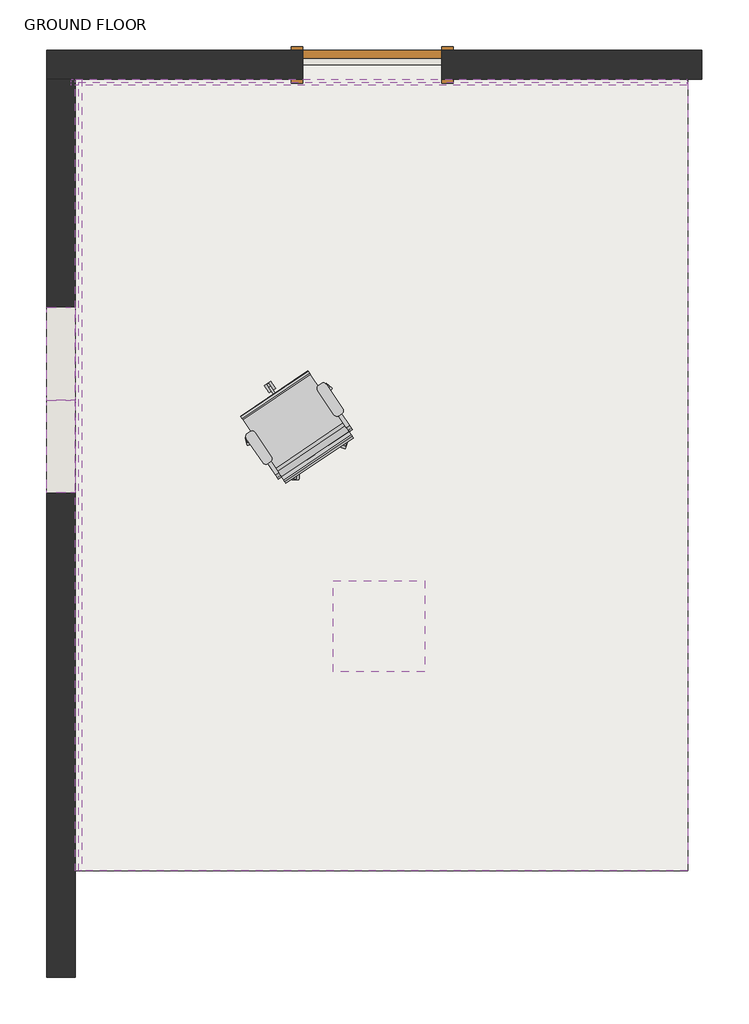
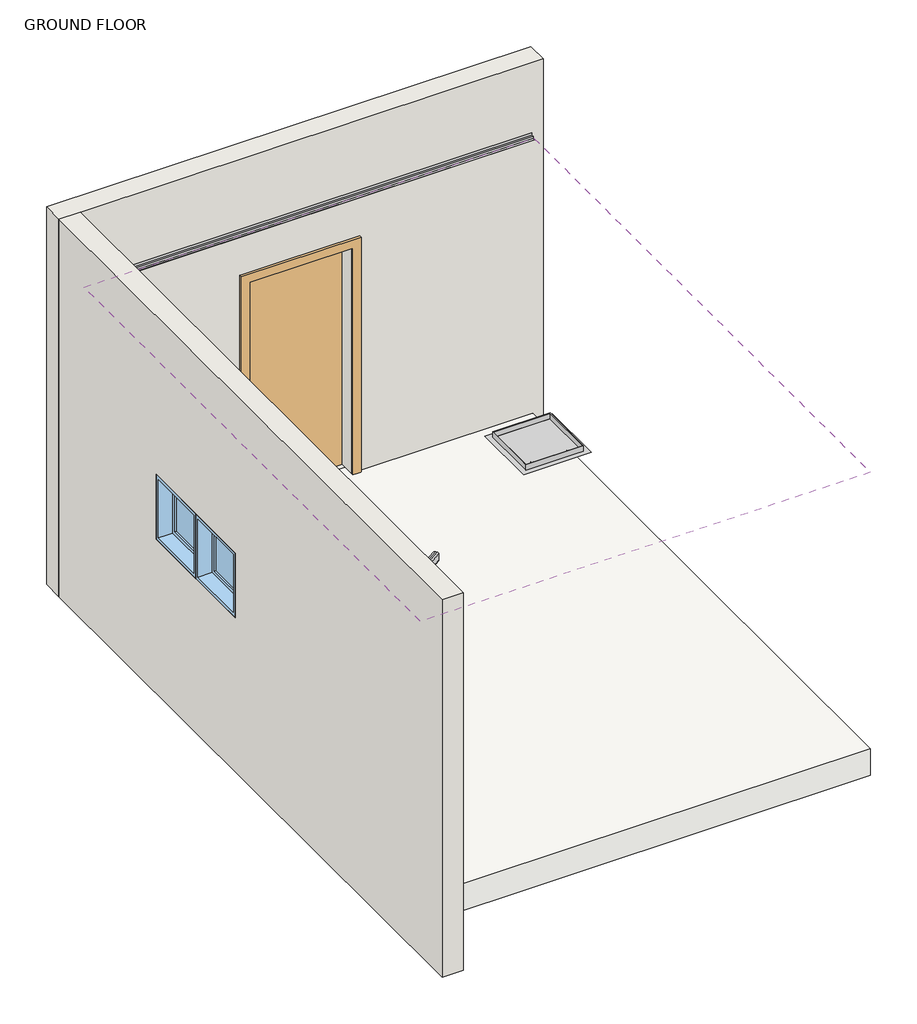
# One storey, incomplete: 3 proxies, 2 coverings, 2 walls, 2 windows, 1 door, 1 furniture element, 1 slab.
"""IFC4 building model written with IfcOpenShell, lengths in millimetres."""

from ifc_helpers import new_model, si_unit, point, frame, frame_2d, origin, place, context, project, spatial, polyline, circle_curve, trimmed, segment, composite_curve, outline, extrude, faceted_brep, transform, mapped, element, save
from components import m_single_flush_0915_x_2134mm_f5238887, chair_task_arms_chair_task_arms_3b363349, m_fixed_0610_x_0610mm_09852ef8

model = new_model("IFC4")

# Units and contexts
model_context = context("Model", 3, world=origin())
ifc_project = project(units=[si_unit("LENGTHUNIT", "METRE", prefix="MILLI")], contexts=[model_context])

# Site, building, storey
site = spatial("IfcSite", under=ifc_project)
building = spatial("IfcBuilding", under=site)
storey = spatial("IfcBuildingStorey", under=building, Name="GROUND FLOOR", Elevation=0.0)

# Proxies
placement = place(None, origin())
element("IfcBuildingElementProxy", 1, Name="Ceiling_Access_HatchPanel_Parametric : Bottom Hung", ObjectType="Ceiling_Access_HatchPanel_Parametric : Bottom Hung", at=placement, inside=storey, context=model_context, shape_type="SolidModel", body=[
    faceted_brep([(107182.6212716, 2875.9489557, 2650.0), (107182.6212716, 2365.2489557, 2650.0), (107693.3212716, 2365.2489557, 2650.0), (107693.3212716, 2875.9489557, 2650.0), (107188.9712716, 2869.5989557, 2650.0), (107686.9712716, 2869.5989557, 2650.0), (107686.9712716, 2371.5989557, 2650.0), (107188.9712716, 2371.5989557, 2650.0), (107182.6212716, 2875.9489557, 2600.0), (107693.3212716, 2875.9489557, 2600.0), (107693.3212716, 2365.2489557, 2600.0), (107182.6212716, 2365.2489557, 2600.0), (107188.9712716, 2869.5989557, 2600.0), (107188.9712716, 2371.5989557, 2600.0), (107686.9712716, 2371.5989557, 2600.0), (107686.9712716, 2869.5989557, 2600.0), (107182.6212716, 2875.9489557, 2611.0), (107182.6212716, 2365.2489557, 2611.0), (107693.3212716, 2365.2489557, 2611.0), (107693.3212716, 2875.9489557, 2611.0)], [[[0, 1, 2, 3], [4, 5, 6, 7]], [[8, 9, 10, 11], [12, 13, 14, 15]], [[5, 4, 12, 15]], [[6, 5, 15, 14]], [[7, 6, 14, 13]], [[4, 7, 13, 12]], [[1, 0, 16, 8, 11, 17]], [[2, 1, 17, 11, 10, 18]], [[3, 2, 18, 10, 9, 19]], [[0, 3, 19, 9, 8, 16]]]),
    extrude(outline(polyline([(107188.9712716, 2869.5989557), (107686.9712716, 2869.5989557), (107686.9712716, 2371.5989557), (107188.9712716, 2371.5989557), (107188.9712716, 2869.5989557)])), frame((0.0, 0.0, 2593.65), z_axis=(0.0, 0.0, 1.0), x_axis=(1.0, 0.0, 0.0)), (0.0, 0.0, 1.0), 6.35),
    faceted_brep([(107188.9712716, 2869.5989557, 2600.0), (107188.9712716, 2869.5989557, 2590.475), (107686.9712716, 2869.5989557, 2590.475), (107686.9712716, 2869.5989557, 2600.0), (107686.9712716, 2371.5989557, 2590.475), (107686.9712716, 2371.5989557, 2600.0), (107188.9712716, 2371.5989557, 2590.475), (107188.9712716, 2371.5989557, 2600.0), (107725.0712716, 2907.6989557, 2590.475), (107725.0712716, 2333.4989557, 2590.475), (107150.8712716, 2333.4989557, 2590.475), (107150.8712716, 2907.6989557, 2590.475), (107138.1712716, 2920.3989557, 2600.0), (107138.1712716, 2320.7989557, 2600.0), (107737.7712716, 2320.7989557, 2600.0), (107737.7712716, 2920.3989557, 2600.0)], [[[0, 1, 2, 3]], [[3, 2, 4, 5]], [[5, 4, 6, 7]], [[8, 9, 10, 11], [1, 6, 4, 2]], [[12, 13, 14, 15], [3, 5, 7, 0]], [[7, 6, 1, 0]], [[11, 12, 15, 8]], [[8, 15, 14, 9]], [[9, 14, 13, 10]], [[10, 13, 12, 11]]]),
    extrude(outline(composite_curve([segment(trimmed(circle_curve(frame_2d((107278.9712716, 2437.9489557)), 10.0), [point((107278.9712716, 2427.9489557))], [point((107278.9712716, 2447.9489557))], False, "CARTESIAN"), True, "CONTINUOUS"), segment(trimmed(circle_curve(frame_2d((107278.9712716, 2437.9489557)), 10.0), [point((107278.9712716, 2447.9489557))], [point((107278.9712716, 2427.9489557))], False, "CARTESIAN"), True, "CONTINUOUS")], self_intersect=False)), frame((0.0, 0.0, 2593.65), z_axis=(0.0, 0.0, 1.0), x_axis=(1.0, 0.0, 0.0)), (0.0, 0.0, 1.0), 6.35),
    extrude(outline(composite_curve([segment(trimmed(circle_curve(frame_2d((107596.9712716, 2437.9489557)), 10.0), [point((107596.9712716, 2427.9489557))], [point((107596.9712716, 2447.9489557))], False, "CARTESIAN"), True, "CONTINUOUS"), segment(trimmed(circle_curve(frame_2d((107596.9712716, 2437.9489557)), 10.0), [point((107596.9712716, 2447.9489557))], [point((107596.9712716, 2427.9489557))], False, "CARTESIAN"), True, "CONTINUOUS")], self_intersect=False)), frame((0.0, 0.0, 2593.65), z_axis=(0.0, 0.0, 1.0), x_axis=(1.0, 0.0, 0.0)), (0.0, 0.0, 1.0), 6.35),
])
element("IfcBuildingElementProxy", 2, Name="TR01 : Pelican Systems Shadowline used with econogrid", ObjectType="TR01 : Pelican Systems Shadowline used with econogrid", at=placement, inside=storey, context=model_context, shape_type="Brep", body=[
    faceted_brep([(109460.7345529, 6217.9193804, 2639.0), (109460.7345529, 6216.9193804, 2639.0), (109460.7345529, 6216.9193804, 2619.0), (109460.7345529, 6196.9193804, 2619.0), (109460.7345529, 6196.9193804, 2600.0), (109460.7345529, 6176.9193804, 2600.0), (109460.7345529, 6176.9193804, 2599.0), (109460.7345529, 6197.9193804, 2599.0), (109460.7345529, 6197.9193804, 2618.0), (109460.7345529, 6217.9193804, 2618.0), (105415.7345529, 6217.9193804, 2639.0), (105415.7345529, 6217.9193804, 2618.0), (105415.7345529, 6197.9193804, 2618.0), (105415.7345529, 6197.9193804, 2599.0), (105415.7345529, 6176.9193804, 2599.0), (105415.7345529, 6176.9193804, 2600.0), (105415.7345529, 6196.9193804, 2600.0), (105415.7345529, 6196.9193804, 2619.0), (105415.7345529, 6216.9193804, 2619.0), (105415.7345529, 6216.9193804, 2639.0), (105443.7345529, 6217.9193804, 2618.0), (105443.7345529, 6217.9193804, 2634.0), (105442.7345529, 6217.9193804, 2634.0), (105442.7345529, 6217.9193804, 2618.0), (105443.7345529, 6197.9193804, 2618.0), (105463.7345529, 6197.9193804, 2599.0), (105463.7345529, 6197.9193804, 2614.0), (105443.7345529, 6197.9193804, 2614.0), (105463.7345529, 6176.9193804, 2599.0), (105443.7345529, 6196.9193804, 2619.0), (105443.7345529, 6196.9193804, 2614.0), (105463.7345529, 6196.9193804, 2614.0), (105463.7345529, 6196.9193804, 2600.0), (105442.7345529, 6216.9193804, 2634.0), (105442.7345529, 6216.9193804, 2619.0), (105442.7345529, 6196.9193804, 2619.0), (105442.7345529, 6196.9193804, 2613.0), (105442.7345529, 6197.9193804, 2613.0), (105442.7345529, 6197.9193804, 2618.0), (105462.7345529, 6196.9193804, 2613.0), (105462.7345529, 6197.9193804, 2613.0), (105462.7345529, 6196.9193804, 2600.0), (105462.7345529, 6176.9193804, 2600.0), (105462.7345529, 6176.9193804, 2599.0), (105462.7345529, 6197.9193804, 2599.0), (105463.7345529, 6176.9193804, 2600.0), (105443.7345529, 6216.9193804, 2619.0), (105443.7345529, 6216.9193804, 2634.0)], [[[0, 1, 2, 3, 4, 5, 6, 7, 8, 9]], [[10, 11, 12, 13, 14, 15, 16, 17, 18, 19]], [[0, 9, 20, 21, 22, 23, 11, 10]], [[9, 8, 24, 20]], [[8, 7, 25, 26, 27, 24]], [[7, 6, 28, 25]], [[4, 3, 29, 30, 31, 32]], [[22, 33, 34, 35, 36, 37, 38, 23]], [[37, 36, 39, 40]], [[40, 39, 41, 42, 43, 44]], [[31, 26, 25, 28, 45, 32]], [[26, 31, 30, 27]], [[27, 30, 29, 46, 47, 21, 20, 24]], [[6, 5, 45, 28]], [[5, 4, 32, 45]], [[3, 2, 46, 29]], [[2, 1, 19, 18, 34, 33, 47, 46]], [[1, 0, 10, 19]], [[12, 11, 23, 38]], [[18, 17, 35, 34]], [[33, 22, 21, 47]], [[13, 12, 38, 37, 40, 44]], [[14, 13, 44, 43]], [[17, 16, 41, 39, 36, 35]], [[15, 14, 43, 42]], [[16, 15, 42, 41]]]),
])
element("IfcBuildingElementProxy", 3, Name="TR01 : Pelican Systems Shadowline used with econogrid", ObjectType="TR01 : Pelican Systems Shadowline used with econogrid", at=placement, inside=storey, context=model_context, shape_type="Brep", body=[
    faceted_brep([(105442.7345529, 6217.9193804, 2634.0), (105443.7345529, 6217.9193804, 2634.0), (105443.7345529, 6217.9193804, 2618.0), (105443.7345529, 6217.9193804, 2614.0), (105463.7345529, 6217.9193804, 2614.0), (105463.7345529, 6217.9193804, 2595.0), (105483.7345529, 6217.9193804, 2595.0), (105483.7345529, 6217.9193804, 2594.0), (105462.7345529, 6217.9193804, 2594.0), (105462.7345529, 6217.9193804, 2613.0), (105442.7345529, 6217.9193804, 2613.0), (105442.7345529, 6217.9193804, 2618.0), (105442.7345529, 1012.9193804, 2634.0), (105442.7345529, 1012.9193804, 2613.0), (105462.7345529, 1012.9193804, 2613.0), (105462.7345529, 1012.9193804, 2594.0), (105483.7345529, 1012.9193804, 2594.0), (105483.7345529, 1012.9193804, 2595.0), (105463.7345529, 1012.9193804, 2595.0), (105463.7345529, 1012.9193804, 2614.0), (105443.7345529, 1012.9193804, 2614.0), (105443.7345529, 1012.9193804, 2634.0), (105442.7345529, 6197.9193804, 2613.0), (105442.7345529, 6196.9193804, 2613.0), (105442.7345529, 6216.9193804, 2634.0), (105462.7345529, 6197.9193804, 2613.0), (105462.7345529, 6196.9193804, 2613.0), (105463.7345529, 6197.9193804, 2614.0), (105463.7345529, 6196.9193804, 2614.0), (105443.7345529, 6197.9193804, 2614.0), (105443.7345529, 6196.9193804, 2614.0), (105443.7345529, 6216.9193804, 2634.0)], [[[0, 1, 2, 3, 4, 5, 6, 7, 8, 9, 10, 11]], [[12, 13, 14, 15, 16, 17, 18, 19, 20, 21]], [[10, 22, 23, 13, 12, 24, 0, 11]], [[9, 25, 26, 14, 13, 23, 22, 10]], [[8, 15, 14, 26, 25, 9]], [[7, 16, 15, 8]], [[4, 27, 28, 19, 18, 5]], [[6, 17, 16, 7]], [[5, 18, 17, 6]], [[3, 29, 30, 20, 19, 28, 27, 4]], [[1, 31, 21, 20, 30, 29, 3, 2]], [[0, 24, 12, 21, 31, 1]]]),
])

# Coverings
element("IfcCovering", 4, ObjectType="_C2.3 - 12mm FLUSHPLASTER CEILING (UNDER CONCRETE SOFFIT)", at=placement, inside=storey, context=model_context, shape_type="SweptSolid", body=[
    extrude(outline(polyline([(105463.7345529, 6197.9193804), (109466.7345529, 6197.9193804), (109466.7345529, 1012.9193804), (105463.7345529, 1012.9193804), (105463.7345529, 6197.9193804)]), holes=[polyline([(107182.6212716, 2875.9489557), (107182.6212716, 2365.2489557), (107693.3212716, 2365.2489557), (107693.3212716, 2875.9489557), (107182.6212716, 2875.9489557)])]), frame((0.0, 0.0, 2600.0), z_axis=(0.0, 0.0, 1.0), x_axis=(1.0, 0.0, 0.0)), (0.0, 0.0, 1.0), 11.0),
])
element("IfcCovering", 5, ObjectType="AMF Thermatex® Star - 600x600mm 2", at=placement, inside=storey, context=model_context, shape_type="SweptSolid", body=[
    extrude(outline(polyline([(109466.7345529, 6197.9193804), (109466.7345529, 1012.9193804), (105463.7345529, 1012.9193804), (105463.7345529, 6197.9193804), (109466.7345529, 6197.9193804)])), frame((0.0, 0.0, 2600.0), z_axis=(0.0, 0.0, 1.0), x_axis=(1.0, 0.0, 0.0)), (0.0, 0.0, 1.0), 16.0),
])

# Door
m_single_flush_0915_x_2134mm_shape = m_single_flush_0915_x_2134mm_f5238887(model_context)
element("IfcDoor", 6, ObjectType="M_Single-Flush : 0915 x 2134mm", at=placement, inside=storey, context=model_context, shape_type="MappedRepresentation", body=[
    mapped(m_single_flush_0915_x_2134mm_shape, transform((107394.7345529, 6312.9193804, 0.0), x_axis=(1.0, 0.0, 0.0), y_axis=(0.0, 1.0, 0.0), z_axis=(0.0, 0.0, 1.0))),
])

# Furniture
chair_task_arms_chair_task_arms_shape = chair_task_arms_chair_task_arms_3b363349(model_context)
element("IfcFurniture", 7, ObjectType="Chair-Task Arms : Chair-Task Arms", at=placement, inside=storey, context=model_context, shape_type="MappedRepresentation", body=[
    mapped(chair_task_arms_chair_task_arms_shape, transform((106792.677586, 3836.7323612, 0.0), x_axis=(0.8290375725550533, 0.5591929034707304, 0.0), y_axis=(-0.5591929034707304, 0.8290375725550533, 0.0), z_axis=(0.0, 0.0, 1.0))),
])

# Slab
element("IfcSlab", 8, ObjectType="Generic Floor - 250mm", at=placement, inside=storey, context=model_context, shape_type="Brep", body=[
    faceted_brep([(105366.7345529, 6312.9193804, -250.0), (109466.7345529, 6312.9193804, -250.0), (109466.7345529, 6217.9193804, -250.0), (109466.7345529, 1012.9193804, -250.0), (105366.7345529, 1012.9193804, -250.0), (105366.7345529, 6217.9193804, -250.0), (105366.7345529, 6312.9193804, 0.0), (105366.7345529, 6217.9193804, 0.0), (105366.7345529, 1012.9193804, 0.0), (109466.7345529, 1012.9193804, 0.0), (109466.7345529, 6217.9193804, 0.0), (109466.7345529, 6312.9193804, 0.0), (107852.2345529, 6312.9193804, 0.0), (106937.2345529, 6312.9193804, 0.0)], [[[0, 1, 2, 3, 4, 5]], [[6, 7, 8, 9, 10, 11, 12, 13]], [[1, 0, 6, 13, 12, 11]], [[3, 2, 1, 11, 10, 9]], [[4, 3, 9, 8]], [[0, 5, 4, 8, 7, 6]]]),
])

# Walls
element("IfcWall", 9, ObjectType="190mm MAXI BLOCK- plastered", at=placement, inside=storey, context=model_context, shape_type="Brep", body=[
    faceted_brep([(109561.7345529, 6217.9193804, -250.0), (109561.7345529, 6217.9193804, 3300.0), (105442.7345529, 6217.9193804, 3300.0), (105252.7345529, 6217.9193804, 3300.0), (105252.7345529, 6217.9193804, -250.0), (105366.7345529, 6217.9193804, -250.0), (105366.7345529, 6217.9193804, 0.0), (106937.2345529, 6217.9193804, 0.0), (106937.2345529, 6217.9193804, 2134.0), (107852.2345529, 6217.9193804, 2134.0), (107852.2345529, 6217.9193804, 0.0), (109466.7345529, 6217.9193804, 0.0), (109466.7345529, 6217.9193804, -250.0), (109561.7345529, 6407.9193804, -250.0), (105252.7345529, 6407.9193804, -250.0), (105252.7345529, 6407.9193804, 3300.0), (109561.7345529, 6407.9193804, 3300.0), (106937.2345529, 6407.9193804, 0.0), (107852.2345529, 6407.9193804, 0.0), (107852.2345529, 6407.9193804, 2134.0), (106937.2345529, 6407.9193804, 2134.0), (109466.7345529, 6312.9193804, -250.0), (105366.7345529, 6312.9193804, -250.0), (106937.2345529, 6312.9193804, 0.0), (107852.2345529, 6312.9193804, 0.0), (105366.7345529, 6312.9193804, 0.0), (109466.7345529, 6312.9193804, 0.0)], [[[0, 1, 2, 3, 4, 5, 6, 7, 8, 9, 10, 11, 12]], [[13, 14, 15, 16], [17, 18, 19, 20]], [[14, 13, 0, 12, 21, 22, 5, 4]], [[1, 0, 13, 16]], [[3, 2, 1, 16, 15]], [[18, 17, 23, 24]], [[19, 18, 24, 10, 9]], [[20, 19, 9, 8]], [[17, 20, 8, 7, 23]], [[25, 23, 7, 6]], [[24, 26, 11, 10]], [[25, 22, 21, 26, 24, 23]], [[22, 25, 6, 5]], [[26, 21, 12, 11]], [[4, 3, 15, 14]]]),
])
element("IfcWall", 10, ObjectType="190mm MAXI BLOCK- plastered", at=placement, inside=storey, context=model_context, shape_type="Brep", body=[
    faceted_brep([(105442.7345529, 312.9193804, -250.0), (105442.7345529, 6217.9193804, -250.0), (105442.7345529, 6217.9193804, 3300.0), (105442.7345529, 312.9193804, 3300.0), (105442.7345529, 3497.9193804, 1810.0), (105442.7345529, 4717.9193804, 1810.0), (105442.7345529, 4717.9193804, 1200.0), (105442.7345529, 3497.9193804, 1200.0), (105252.7345529, 6217.9193804, -250.0), (105252.7345529, 312.9193804, -250.0), (105252.7345529, 312.9193804, 3300.0), (105252.7345529, 6217.9193804, 3300.0), (105252.7345529, 3497.9193804, 1200.0), (105252.7345529, 4717.9193804, 1200.0), (105252.7345529, 4717.9193804, 1810.0), (105252.7345529, 3497.9193804, 1810.0), (105366.7345529, 6217.9193804, -250.0)], [[[0, 1, 2, 3], [4, 5, 6, 7]], [[8, 9, 10, 11], [12, 13, 14, 15]], [[1, 0, 9, 8, 16]], [[3, 2, 11, 10]], [[0, 3, 10, 9]], [[2, 1, 16, 8, 11]], [[14, 13, 6, 5]], [[14, 5, 4, 15]], [[12, 7, 6, 13]], [[15, 4, 7, 12]]]),
])

# Windows
m_fixed_0610_x_0610mm_shape = m_fixed_0610_x_0610mm_09852ef8(model_context)
element("IfcWindow", 11, ObjectType="M_Fixed : 0610 x 0610mm", at=placement, inside=storey, context=model_context, shape_type="MappedRepresentation", body=[
    mapped(m_fixed_0610_x_0610mm_shape, transform((105334.7345529, 4412.9193804, 285.0), x_axis=(0.0, -1.0, 0.0), y_axis=(1.0, 0.0, 0.0), z_axis=(0.0, 0.0, 1.0))),
])
element("IfcWindow", 12, ObjectType="M_Fixed : 0610 x 0610mm", at=placement, inside=storey, context=model_context, shape_type="MappedRepresentation", body=[
    mapped(m_fixed_0610_x_0610mm_shape, transform((105334.7345529, 3802.9193804, 285.0), x_axis=(0.0, -1.0, 0.0), y_axis=(1.0, 0.0, 0.0), z_axis=(0.0, 0.0, 1.0))),
])

save(model, "model.ifc")
